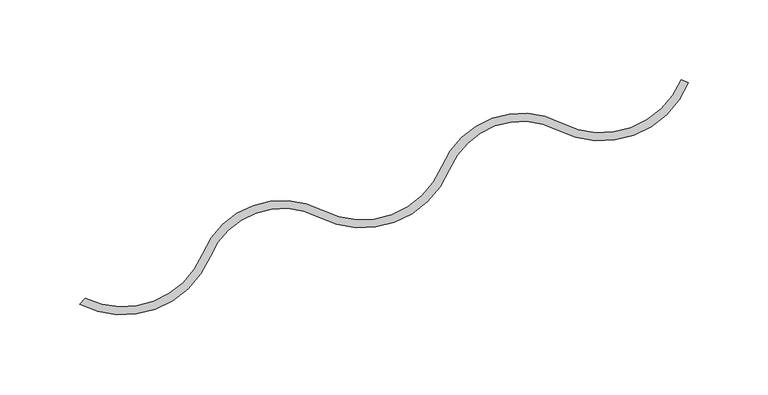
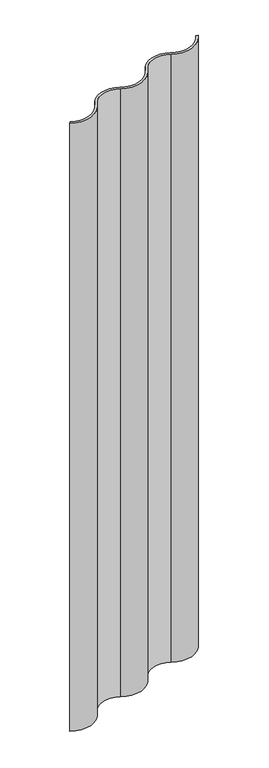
"""IFC4 building model written with IfcOpenShell, lengths in millimetres: damper geometry, Spunt : Spunt."""

from ifc_helpers import new_model, si_unit, point, frame, frame_2d, origin, place, context, project, spatial, polyline, circle_curve, trimmed, segment, composite_curve, outline, extrude, source, transform, mapped, element, save


def damper_041ec83c(model_context):
    return source(origin(), model_context, "Body", "SweptSolid", [
        extrude(outline(composite_curve([segment(trimmed(circle_curve(frame_2d((41395.4678924, -41168.351591)), 54.2304155), [point((41370.4045615, -41216.4428314))], [point((41445.5799712, -41189.0812199))], True, "CARTESIAN"), True, "CONTINUOUS"), segment(polyline([(41445.5799712, -41189.0812199), (41450.2002639, -41190.9924748)]), True, "CONTINUOUS"), segment(trimmed(circle_curve(frame_2d((41395.4678924, -41168.351591)), 59.2304155), [point((41450.2002639, -41190.9924748))], [point((41368.0937429, -41220.8768045))], False, "CARTESIAN"), True, "CONTINUOUS"), segment(trimmed(circle_curve(frame_2d((41345.3412307, -41264.5340719)), 49.2304155), [point((41368.0937429, -41220.8768045))], [point((41299.8494446, -41245.7156977))], True, "CARTESIAN"), True, "CONTINUOUS"), segment(trimmed(circle_curve(frame_2d((41245.1170731, -41223.0748139)), 59.2304155), [point((41299.8494446, -41245.7156977))], [point((41217.7429236, -41275.6000274))], False, "CARTESIAN"), True, "CONTINUOUS"), segment(trimmed(circle_curve(frame_2d((41194.9904114, -41319.2572948)), 49.2304155), [point((41217.7429236, -41275.6000274))], [point((41149.4986253, -41300.4389207))], True, "CARTESIAN"), True, "CONTINUOUS"), segment(trimmed(circle_curve(frame_2d((41094.7662537, -41277.7980368)), 59.2304155), [point((41149.4986253, -41300.4389207))], [point((41067.3921043, -41330.3232504))], False, "CARTESIAN"), True, "CONTINUOUS"), segment(polyline([(41067.3921043, -41330.3232504), (41071.1157596, -41326.5995951)]), True, "CONTINUOUS"), segment(trimmed(circle_curve(frame_2d((41094.7662537, -41277.7980368)), 54.2304155), [point((41071.1157596, -41326.5995951))], [point((41144.8783326, -41298.5276658))], True, "CARTESIAN"), True, "CONTINUOUS"), segment(trimmed(circle_curve(frame_2d((41194.9904114, -41319.2572948)), 54.2304155), [point((41144.8783326, -41298.5276658))], [point((41220.0537422, -41271.1660543))], False, "CARTESIAN"), True, "CONTINUOUS"), segment(trimmed(circle_curve(frame_2d((41245.1170731, -41223.0748139)), 54.2304155), [point((41220.0537422, -41271.1660543))], [point((41295.2291519, -41243.8044429))], True, "CARTESIAN"), True, "CONTINUOUS"), segment(trimmed(circle_curve(frame_2d((41345.3412307, -41264.5340719)), 54.2304155), [point((41295.2291519, -41243.8044429))], [point((41370.4045615, -41216.4428314))], False, "CARTESIAN"), True, "CONTINUOUS")], self_intersect=False)), frame((0.0, 0.0, -200.0), z_axis=(0.0, 0.0, 1.0), x_axis=(1.0, 0.0, 0.0)), (0.0, 0.0, 1.0), 1512.3417874),
    ])


if __name__ == "__main__":
    model = new_model("IFC4")
    model_context = context("Model", 3, world=origin())
    ifc_project = project(units=[si_unit("LENGTHUNIT", "METRE", prefix="MILLI")], contexts=[model_context])
    site = spatial("IfcSite", under=ifc_project)
    building = spatial("IfcBuilding", under=site)
    placement = place(None, origin())
    damper_shape = damper_041ec83c(model_context)
    element("IfcDamper", 1, ObjectType="Spunt : Spunt", at=placement, inside=building, context=model_context, shape_type="MappedRepresentation", body=[
        mapped(damper_shape, transform((0.0, 0.0, 0.0), x_axis=(1.0, 0.0, 0.0), y_axis=(0.0, 1.0, 0.0), z_axis=(0.0, 0.0, 1.0))),
    ])
    save(model, "model.ifc")
